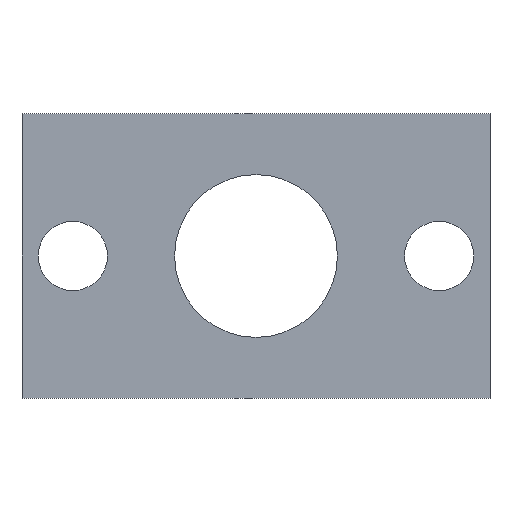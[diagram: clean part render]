
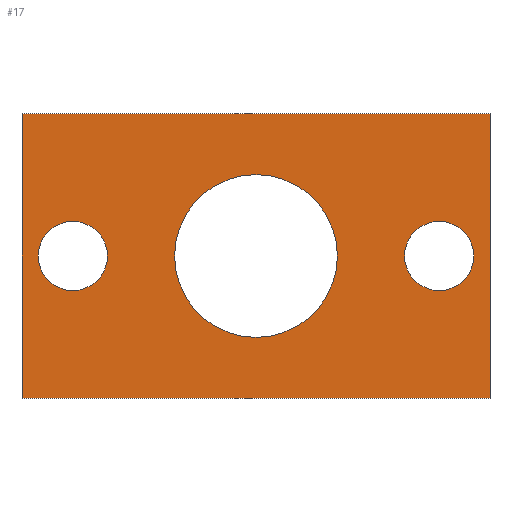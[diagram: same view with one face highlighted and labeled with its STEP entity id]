
A CAD part, left-side view. The second image highlights one B-rep face of the part: STEP entity #17.
In plain terms, the highlighted planar face has unit normal (-1, 0, 0).
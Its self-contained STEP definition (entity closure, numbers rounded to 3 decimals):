
#17 = ADVANCED_FACE('',(#18,#137,#168,#199),#32,.F.);
#18 = FACE_BOUND('',#19,.T.);
#19 = EDGE_LOOP('',(#20,#55,#83,#111));
#20 = ORIENTED_EDGE('',*,*,#21,.F.);
#21 = EDGE_CURVE('',#22,#24,#26,.T.);
#22 = VERTEX_POINT('',#23);
#23 = CARTESIAN_POINT('',(-53.5,39.5,251.5));
#24 = VERTEX_POINT('',#25);
#25 = CARTESIAN_POINT('',(-53.5,16.5,251.5));
#26 = SURFACE_CURVE('',#27,(#31,#43),.PCURVE_S1.);
#27 = LINE('',#28,#29);
#28 = CARTESIAN_POINT('',(-53.5,16.5,251.5));
#29 = VECTOR('',#30,1.);
#30 = DIRECTION('',(0.,-1.,0.));
#31 = PCURVE('',#32,#37);
#32 = PLANE('',#33);
#33 = AXIS2_PLACEMENT_3D('',#34,#35,#36);
#34 = CARTESIAN_POINT('',(-53.5,16.5,237.5));
#35 = DIRECTION('',(1.,0.,0.));
#36 = DIRECTION('',(0.,0.,1.));
#37 = DEFINITIONAL_REPRESENTATION('',(#38),#42);
#38 = LINE('',#39,#40);
#39 = CARTESIAN_POINT('',(14.,0.));
#40 = VECTOR('',#41,1.);
#41 = DIRECTION('',(0.,1.));
#42 = ( GEOMETRIC_REPRESENTATION_CONTEXT(2) 
PARAMETRIC_REPRESENTATION_CONTEXT() REPRESENTATION_CONTEXT('2D SPACE',''
  ) );
#43 = PCURVE('',#44,#49);
#44 = PLANE('',#45);
#45 = AXIS2_PLACEMENT_3D('',#46,#47,#48);
#46 = CARTESIAN_POINT('',(-53.5,16.5,251.5));
#47 = DIRECTION('',(0.,0.,1.));
#48 = DIRECTION('',(1.,0.,0.));
#49 = DEFINITIONAL_REPRESENTATION('',(#50),#54);
#50 = LINE('',#51,#52);
#51 = CARTESIAN_POINT('',(0.,0.));
#52 = VECTOR('',#53,1.);
#53 = DIRECTION('',(0.,-1.));
#54 = ( GEOMETRIC_REPRESENTATION_CONTEXT(2) 
PARAMETRIC_REPRESENTATION_CONTEXT() REPRESENTATION_CONTEXT('2D SPACE',''
  ) );
#55 = ORIENTED_EDGE('',*,*,#56,.F.);
#56 = EDGE_CURVE('',#57,#22,#59,.T.);
#57 = VERTEX_POINT('',#58);
#58 = CARTESIAN_POINT('',(-53.5,39.5,237.5));
#59 = SURFACE_CURVE('',#60,(#64,#71),.PCURVE_S1.);
#60 = LINE('',#61,#62);
#61 = CARTESIAN_POINT('',(-53.5,39.5,237.5));
#62 = VECTOR('',#63,1.);
#63 = DIRECTION('',(0.,0.,1.));
#64 = PCURVE('',#32,#65);
#65 = DEFINITIONAL_REPRESENTATION('',(#66),#70);
#66 = LINE('',#67,#68);
#67 = CARTESIAN_POINT('',(0.,-23.));
#68 = VECTOR('',#69,1.);
#69 = DIRECTION('',(1.,0.));
#70 = ( GEOMETRIC_REPRESENTATION_CONTEXT(2) 
PARAMETRIC_REPRESENTATION_CONTEXT() REPRESENTATION_CONTEXT('2D SPACE',''
  ) );
#71 = PCURVE('',#72,#77);
#72 = PLANE('',#73);
#73 = AXIS2_PLACEMENT_3D('',#74,#75,#76);
#74 = CARTESIAN_POINT('',(-53.5,39.5,237.5));
#75 = DIRECTION('',(0.,1.,0.));
#76 = DIRECTION('',(0.,0.,1.));
#77 = DEFINITIONAL_REPRESENTATION('',(#78),#82);
#78 = LINE('',#79,#80);
#79 = CARTESIAN_POINT('',(0.,0.));
#80 = VECTOR('',#81,1.);
#81 = DIRECTION('',(1.,0.));
#82 = ( GEOMETRIC_REPRESENTATION_CONTEXT(2) 
PARAMETRIC_REPRESENTATION_CONTEXT() REPRESENTATION_CONTEXT('2D SPACE',''
  ) );
#83 = ORIENTED_EDGE('',*,*,#84,.F.);
#84 = EDGE_CURVE('',#85,#57,#87,.T.);
#85 = VERTEX_POINT('',#86);
#86 = CARTESIAN_POINT('',(-53.5,16.5,237.5));
#87 = SURFACE_CURVE('',#88,(#92,#99),.PCURVE_S1.);
#88 = LINE('',#89,#90);
#89 = CARTESIAN_POINT('',(-53.5,16.5,237.5));
#90 = VECTOR('',#91,1.);
#91 = DIRECTION('',(0.,1.,0.));
#92 = PCURVE('',#32,#93);
#93 = DEFINITIONAL_REPRESENTATION('',(#94),#98);
#94 = LINE('',#95,#96);
#95 = CARTESIAN_POINT('',(0.,0.));
#96 = VECTOR('',#97,1.);
#97 = DIRECTION('',(0.,-1.));
#98 = ( GEOMETRIC_REPRESENTATION_CONTEXT(2) 
PARAMETRIC_REPRESENTATION_CONTEXT() REPRESENTATION_CONTEXT('2D SPACE',''
  ) );
#99 = PCURVE('',#100,#105);
#100 = PLANE('',#101);
#101 = AXIS2_PLACEMENT_3D('',#102,#103,#104);
#102 = CARTESIAN_POINT('',(-53.5,16.5,237.5));
#103 = DIRECTION('',(0.,0.,1.));
#104 = DIRECTION('',(1.,0.,0.));
#105 = DEFINITIONAL_REPRESENTATION('',(#106),#110);
#106 = LINE('',#107,#108);
#107 = CARTESIAN_POINT('',(0.,0.));
#108 = VECTOR('',#109,1.);
#109 = DIRECTION('',(0.,1.));
#110 = ( GEOMETRIC_REPRESENTATION_CONTEXT(2) 
PARAMETRIC_REPRESENTATION_CONTEXT() REPRESENTATION_CONTEXT('2D SPACE',''
  ) );
#111 = ORIENTED_EDGE('',*,*,#112,.T.);
#112 = EDGE_CURVE('',#85,#24,#113,.T.);
#113 = SURFACE_CURVE('',#114,(#118,#125),.PCURVE_S1.);
#114 = LINE('',#115,#116);
#115 = CARTESIAN_POINT('',(-53.5,16.5,237.5));
#116 = VECTOR('',#117,1.);
#117 = DIRECTION('',(0.,0.,1.));
#118 = PCURVE('',#32,#119);
#119 = DEFINITIONAL_REPRESENTATION('',(#120),#124);
#120 = LINE('',#121,#122);
#121 = CARTESIAN_POINT('',(0.,0.));
#122 = VECTOR('',#123,1.);
#123 = DIRECTION('',(1.,0.));
#124 = ( GEOMETRIC_REPRESENTATION_CONTEXT(2) 
PARAMETRIC_REPRESENTATION_CONTEXT() REPRESENTATION_CONTEXT('2D SPACE',''
  ) );
#125 = PCURVE('',#126,#131);
#126 = PLANE('',#127);
#127 = AXIS2_PLACEMENT_3D('',#128,#129,#130);
#128 = CARTESIAN_POINT('',(-53.5,16.5,237.5));
#129 = DIRECTION('',(0.,1.,0.));
#130 = DIRECTION('',(0.,0.,1.));
#131 = DEFINITIONAL_REPRESENTATION('',(#132),#136);
#132 = LINE('',#133,#134);
#133 = CARTESIAN_POINT('',(0.,0.));
#134 = VECTOR('',#135,1.);
#135 = DIRECTION('',(1.,0.));
#136 = ( GEOMETRIC_REPRESENTATION_CONTEXT(2) 
PARAMETRIC_REPRESENTATION_CONTEXT() REPRESENTATION_CONTEXT('2D SPACE',''
  ) );
#137 = FACE_BOUND('',#138,.T.);
#138 = EDGE_LOOP('',(#139));
#139 = ORIENTED_EDGE('',*,*,#140,.T.);
#140 = EDGE_CURVE('',#141,#141,#143,.T.);
#141 = VERTEX_POINT('',#142);
#142 = CARTESIAN_POINT('',(-53.5,37.,242.8));
#143 = SURFACE_CURVE('',#144,(#149,#156),.PCURVE_S1.);
#144 = CIRCLE('',#145,1.7);
#145 = AXIS2_PLACEMENT_3D('',#146,#147,#148);
#146 = CARTESIAN_POINT('',(-53.5,37.,244.5));
#147 = DIRECTION('',(1.,-0.,0.));
#148 = DIRECTION('',(0.,0.,-1.));
#149 = PCURVE('',#32,#150);
#150 = DEFINITIONAL_REPRESENTATION('',(#151),#155);
#151 = CIRCLE('',#152,1.7);
#152 = AXIS2_PLACEMENT_2D('',#153,#154);
#153 = CARTESIAN_POINT('',(7.,-20.5));
#154 = DIRECTION('',(-1.,0.));
#155 = ( GEOMETRIC_REPRESENTATION_CONTEXT(2) 
PARAMETRIC_REPRESENTATION_CONTEXT() REPRESENTATION_CONTEXT('2D SPACE',''
  ) );
#156 = PCURVE('',#157,#162);
#157 = CYLINDRICAL_SURFACE('',#158,1.7);
#158 = AXIS2_PLACEMENT_3D('',#159,#160,#161);
#159 = CARTESIAN_POINT('',(-53.5,37.,244.5));
#160 = DIRECTION('',(1.,0.,0.));
#161 = DIRECTION('',(0.,0.,1.));
#162 = DEFINITIONAL_REPRESENTATION('',(#163),#167);
#163 = LINE('',#164,#165);
#164 = CARTESIAN_POINT('',(3.142,0.));
#165 = VECTOR('',#166,1.);
#166 = DIRECTION('',(1.,0.));
#167 = ( GEOMETRIC_REPRESENTATION_CONTEXT(2) 
PARAMETRIC_REPRESENTATION_CONTEXT() REPRESENTATION_CONTEXT('2D SPACE',''
  ) );
#168 = FACE_BOUND('',#169,.T.);
#169 = EDGE_LOOP('',(#170));
#170 = ORIENTED_EDGE('',*,*,#171,.T.);
#171 = EDGE_CURVE('',#172,#172,#174,.T.);
#172 = VERTEX_POINT('',#173);
#173 = CARTESIAN_POINT('',(-53.5,28.,240.5));
#174 = SURFACE_CURVE('',#175,(#180,#187),.PCURVE_S1.);
#175 = CIRCLE('',#176,4.);
#176 = AXIS2_PLACEMENT_3D('',#177,#178,#179);
#177 = CARTESIAN_POINT('',(-53.5,28.,244.5));
#178 = DIRECTION('',(1.,-0.,0.));
#179 = DIRECTION('',(0.,0.,-1.));
#180 = PCURVE('',#32,#181);
#181 = DEFINITIONAL_REPRESENTATION('',(#182),#186);
#182 = CIRCLE('',#183,4.);
#183 = AXIS2_PLACEMENT_2D('',#184,#185);
#184 = CARTESIAN_POINT('',(7.,-11.5));
#185 = DIRECTION('',(-1.,0.));
#186 = ( GEOMETRIC_REPRESENTATION_CONTEXT(2) 
PARAMETRIC_REPRESENTATION_CONTEXT() REPRESENTATION_CONTEXT('2D SPACE',''
  ) );
#187 = PCURVE('',#188,#193);
#188 = CYLINDRICAL_SURFACE('',#189,4.);
#189 = AXIS2_PLACEMENT_3D('',#190,#191,#192);
#190 = CARTESIAN_POINT('',(-53.5,28.,244.5));
#191 = DIRECTION('',(1.,0.,0.));
#192 = DIRECTION('',(0.,0.,1.));
#193 = DEFINITIONAL_REPRESENTATION('',(#194),#198);
#194 = LINE('',#195,#196);
#195 = CARTESIAN_POINT('',(3.142,0.));
#196 = VECTOR('',#197,1.);
#197 = DIRECTION('',(1.,0.));
#198 = ( GEOMETRIC_REPRESENTATION_CONTEXT(2) 
PARAMETRIC_REPRESENTATION_CONTEXT() REPRESENTATION_CONTEXT('2D SPACE',''
  ) );
#199 = FACE_BOUND('',#200,.T.);
#200 = EDGE_LOOP('',(#201));
#201 = ORIENTED_EDGE('',*,*,#202,.T.);
#202 = EDGE_CURVE('',#203,#203,#205,.T.);
#203 = VERTEX_POINT('',#204);
#204 = CARTESIAN_POINT('',(-53.5,19.,242.8));
#205 = SURFACE_CURVE('',#206,(#211,#218),.PCURVE_S1.);
#206 = CIRCLE('',#207,1.7);
#207 = AXIS2_PLACEMENT_3D('',#208,#209,#210);
#208 = CARTESIAN_POINT('',(-53.5,19.,244.5));
#209 = DIRECTION('',(1.,-0.,0.));
#210 = DIRECTION('',(0.,0.,-1.));
#211 = PCURVE('',#32,#212);
#212 = DEFINITIONAL_REPRESENTATION('',(#213),#217);
#213 = CIRCLE('',#214,1.7);
#214 = AXIS2_PLACEMENT_2D('',#215,#216);
#215 = CARTESIAN_POINT('',(7.,-2.5));
#216 = DIRECTION('',(-1.,0.));
#217 = ( GEOMETRIC_REPRESENTATION_CONTEXT(2) 
PARAMETRIC_REPRESENTATION_CONTEXT() REPRESENTATION_CONTEXT('2D SPACE',''
  ) );
#218 = PCURVE('',#219,#224);
#219 = CYLINDRICAL_SURFACE('',#220,1.7);
#220 = AXIS2_PLACEMENT_3D('',#221,#222,#223);
#221 = CARTESIAN_POINT('',(-53.5,19.,244.5));
#222 = DIRECTION('',(1.,0.,0.));
#223 = DIRECTION('',(0.,0.,1.));
#224 = DEFINITIONAL_REPRESENTATION('',(#225),#229);
#225 = LINE('',#226,#227);
#226 = CARTESIAN_POINT('',(3.142,0.));
#227 = VECTOR('',#228,1.);
#228 = DIRECTION('',(1.,0.));
#229 = ( GEOMETRIC_REPRESENTATION_CONTEXT(2) 
PARAMETRIC_REPRESENTATION_CONTEXT() REPRESENTATION_CONTEXT('2D SPACE',''
  ) );
